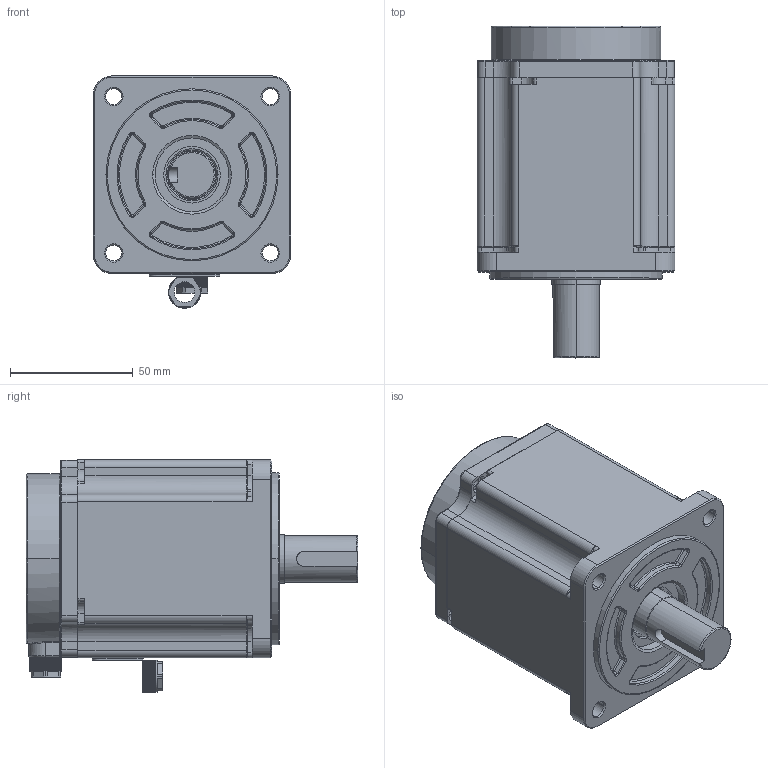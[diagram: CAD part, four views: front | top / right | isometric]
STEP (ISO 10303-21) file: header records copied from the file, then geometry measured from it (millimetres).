
FILE_DESCRIPTION((''),'2;1');
FILE_NAME('80X6_750WASM_ASM','2022-07-21T',('Administrator'),(''),'PRO/ENGINEER BY PARAMETRIC TECHNOLOGY CORPORATION, 2008380','PRO/ENGINEER BY PARAMETRIC TECHNOLOGY CORPORATION, 2008380','');
FILE_SCHEMA(('CONFIG_CONTROL_DESIGN'));
Products named in the file (1): 80X6_750WASM_ASM
Bounding box: 80.5 x 135 x 94.5 mm (x, y, z)
Volume: 400259 mm3; surface area: 178405 mm2
Topology: 12 solids, 38 shells, 4513 faces, 11403 edges, 6845 vertices
Faces by surface type: plane 2218, cylinder 1487, bspline 278, torus 262, cone 145, sphere 123
Entity records: 144381 total; most frequent: CARTESIAN_POINT 36494, DIRECTION 22967, ORIENTED_EDGE 22560, EDGE_CURVE 11280, AXIS2_PLACEMENT_3D 8330, VERTEX_POINT 6845, VECTOR 6307, LINE 6307
